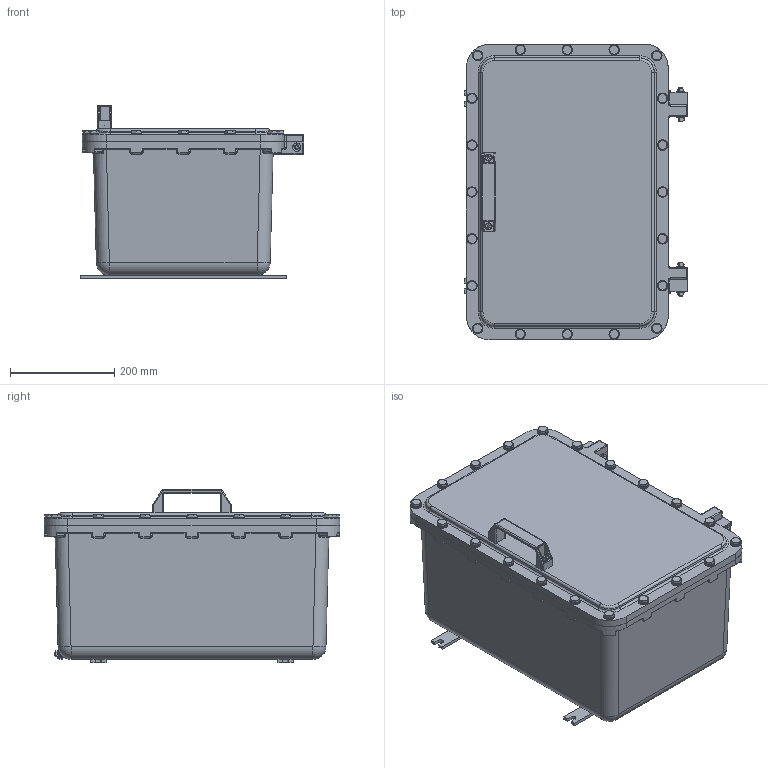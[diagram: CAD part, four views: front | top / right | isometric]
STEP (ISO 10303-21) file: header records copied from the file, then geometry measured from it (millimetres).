
FILE_DESCRIPTION((''),'2;1');
FILE_NAME('\\file-server\cortem_klient\INVENTOR БАЗА МОДЕЛЕЙ\Актуальная база моделей для отдела продаж\ЩОРВ-Н\ЩОРВ-Н563828.stp','2019-04-10T14:55:34',('V.E.Dolguev'),(''),'Autodesk Inventor 2012','Autodesk Inventor 2012','');
FILE_SCHEMA(('AUTOMOTIVE_DESIGN { 1 0 10303 214 1 1 1 1 }'));
Length unit declared in the file: millimetre
Products named in the file (1): ЩОРВ-Н563828
Bounding box: 429.55 x 568 x 332.2 mm (x, y, z)
Surface area: 2168175.4 mm2 (no closed solid volume)
Topology: 0 solids, 76 shells, 2135 faces, 4955 edges, 3049 vertices
Faces by surface type: plane 777, cylinder 588, bspline 422, cone 218, sphere 82, torus 48
Full cylindrical faces by diameter (mm): 2.1 x4, 3 x8, 4.9 x6, 4.917 x1, 5 x4, 6 x3, 6.4 x1, 6.5 x2, 6.647 x2, 7.9 x3, 8 x4, 8.4 x30, 8.5 x6, 9.188 x20, 10 x24, 10.5 x40, 11 x4, 12 x1, 13 x2, 13.5 x2, 15.4 x20, 16 x6, 20 x24
Entity records: 77835 total; most frequent: CARTESIAN_POINT 30817, ORIENTED_EDGE 9060, DIRECTION 8633, EDGE_CURVE 4530, AXIS2_PLACEMENT_3D 3374, VERTEX_POINT 2973, EDGE_LOOP 2753, FACE_OUTER_BOUND 2135
